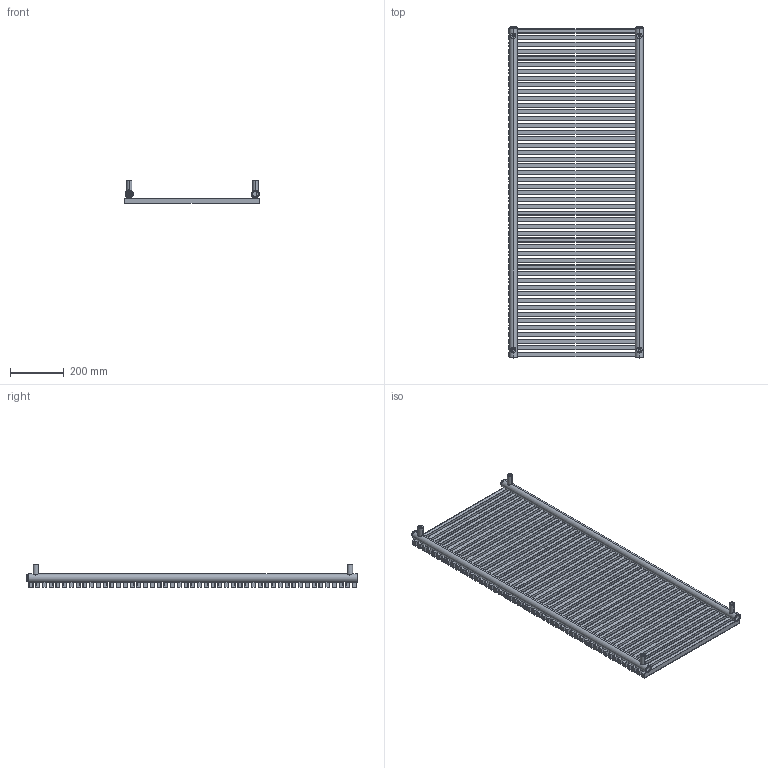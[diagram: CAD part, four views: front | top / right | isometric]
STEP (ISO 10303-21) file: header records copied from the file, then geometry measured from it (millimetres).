
FILE_DESCRIPTION (( 'STEP AP203' ), '1' );
FILE_NAME ('PEN122S050.STEP', '2026-03-05T14:10:02', ( '' ), ( '' ), 'SwSTEP 2.0', 'SolidWorks 2025', '' );
FILE_SCHEMA (( 'CONFIG_CONTROL_DESIGN' ));
Length unit declared in the file: millimetre
Products named in the file (5): tappo_sfiato.prt; TRAVERSINO PENTAGRAMMA [Con configurazioni]_500; PEN122S050; tappo_sx.prt; COLLETTORE INT 25 PENTAGRAMMA [Con configurazioni]_1225
Assembly tree (53 placements, depth 2):
  PEN122S050
    TRAVERSINO PENTAGRAMMA [Con configurazioni]_500  x49
    COLLETTORE INT 25 PENTAGRAMMA [Con configurazioni]_1225  x2
    tappo_sfiato.prt
    tappo_sx.prt
Bounding box: 500 x 1231 x 85 mm (x, y, z)
Volume: 2300232.3 mm3; surface area: 3681585.1 mm2
Topology: 51 solids, 55 shells, 2181 faces, 5244 edges, 2693 vertices
Faces by surface type: cylinder 1056, plane 658, bspline 441, torus 24, cone 2
Entity records: 26700 total; most frequent: CARTESIAN_POINT 17607, ORIENTED_EDGE 1868, DIRECTION 1002, EDGE_CURVE 938, B_SPLINE_CURVE_WITH_KNOTS 607, VERTEX_POINT 537, AXIS2_PLACEMENT_3D 371, EDGE_LOOP 338
